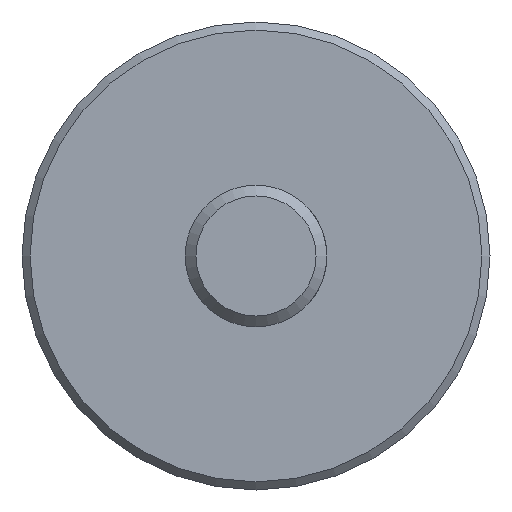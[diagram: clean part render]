
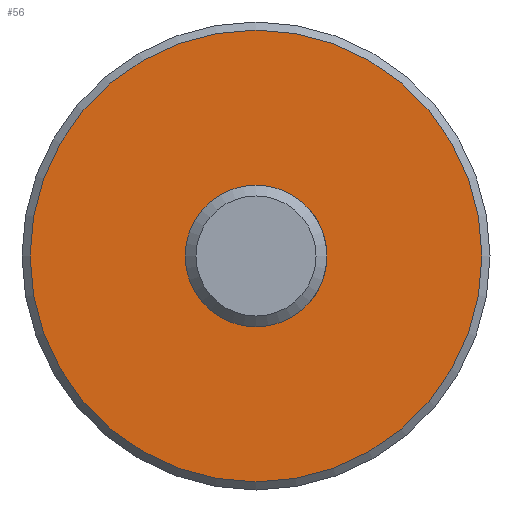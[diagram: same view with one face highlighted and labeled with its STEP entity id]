
A CAD part, front view. The second image highlights one B-rep face of the part: STEP entity #56.
In plain terms, the highlighted planar face has unit normal (0, -1, 0).
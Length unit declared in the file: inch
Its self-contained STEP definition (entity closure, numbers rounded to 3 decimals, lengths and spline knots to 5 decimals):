
#56 = ADVANCED_FACE ( 'NONE', ( #289, #462 ), #215, .F. ) ;
#70 = DIRECTION ( 'NONE',  ( 0., 0., 1. ) ) ;
#88 = EDGE_CURVE ( 'NONE', #192, #192, #515, .T. ) ;
#94 = CIRCLE ( 'NONE', #308, 0.3937 ) ;
#103 = EDGE_CURVE ( 'NONE', #245, #245, #94, .T. ) ;
#106 = ORIENTED_EDGE ( 'NONE', *, *, #88, .F. ) ;
#114 = AXIS2_PLACEMENT_3D ( 'NONE', #259, #342, #120 ) ;
#120 = DIRECTION ( 'NONE',  ( 0., 0., 1. ) ) ;
#159 = EDGE_LOOP ( 'NONE', ( #297 ) ) ;
#170 = CARTESIAN_POINT ( 'NONE',  ( 0., 3.33, 0. ) ) ;
#192 = VERTEX_POINT ( 'NONE', #336 ) ;
#212 = CARTESIAN_POINT ( 'NONE',  ( 0., 3.33, 0. ) ) ;
#215 = PLANE ( 'NONE',  #114 ) ;
#245 = VERTEX_POINT ( 'NONE', #368 ) ;
#259 = CARTESIAN_POINT ( 'NONE',  ( 0.3937, 3.33, 0. ) ) ;
#265 = AXIS2_PLACEMENT_3D ( 'NONE', #170, #475, #70 ) ;
#289 = FACE_OUTER_BOUND ( 'NONE', #559, .T. ) ;
#297 = ORIENTED_EDGE ( 'NONE', *, *, #103, .T. ) ;
#308 = AXIS2_PLACEMENT_3D ( 'NONE', #212, #385, #472 ) ;
#336 = CARTESIAN_POINT ( 'NONE',  ( 0., 3.33, 1.255 ) ) ;
#342 = DIRECTION ( 'NONE',  ( 0., 1., 0. ) ) ;
#368 = CARTESIAN_POINT ( 'NONE',  ( 0., 3.33, 0.3937 ) ) ;
#385 = DIRECTION ( 'NONE',  ( 0., 1., 0. ) ) ;
#462 = FACE_BOUND ( 'NONE', #159, .T. ) ;
#472 = DIRECTION ( 'NONE',  ( 0., 0., 1. ) ) ;
#475 = DIRECTION ( 'NONE',  ( 0., 1., 0. ) ) ;
#515 = CIRCLE ( 'NONE', #265, 1.255 ) ;
#559 = EDGE_LOOP ( 'NONE', ( #106 ) ) ;
